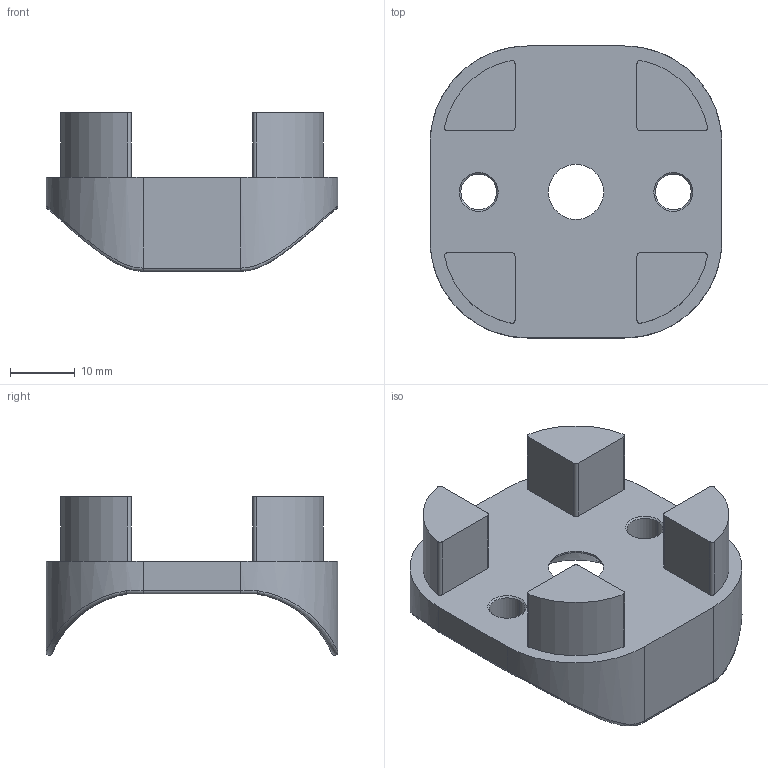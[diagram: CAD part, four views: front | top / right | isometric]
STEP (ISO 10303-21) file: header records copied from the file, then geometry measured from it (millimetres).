
FILE_DESCRIPTION (( 'STEP AP203' ), '1' );
FILE_NAME ('800.029.141.STEP', '2014-11-13T10:59:47', ( '' ), ( '' ), 'SwSTEP 2.0', 'SolidWorks 2012', '' );
FILE_SCHEMA (( 'CONFIG_CONTROL_DESIGN' ));
Length unit declared in the file: millimetre
Products named in the file (1): 800.029.141
Bounding box: 45 x 45 x 24.48 mm (x, y, z)
Volume: 14398.9 mm3; surface area: 6868.8 mm2
Topology: 1 solids, 1 shells, 70 faces, 174 edges, 110 vertices
Faces by surface type: cylinder 34, plane 18, cone 10, torus 4, bspline 4
Entity records: 2785 total; most frequent: CARTESIAN_POINT 1007, DIRECTION 370, ORIENTED_EDGE 348, EDGE_CURVE 174, AXIS2_PLACEMENT_3D 145, VERTEX_POINT 110, EDGE_LOOP 80, VECTOR 80
